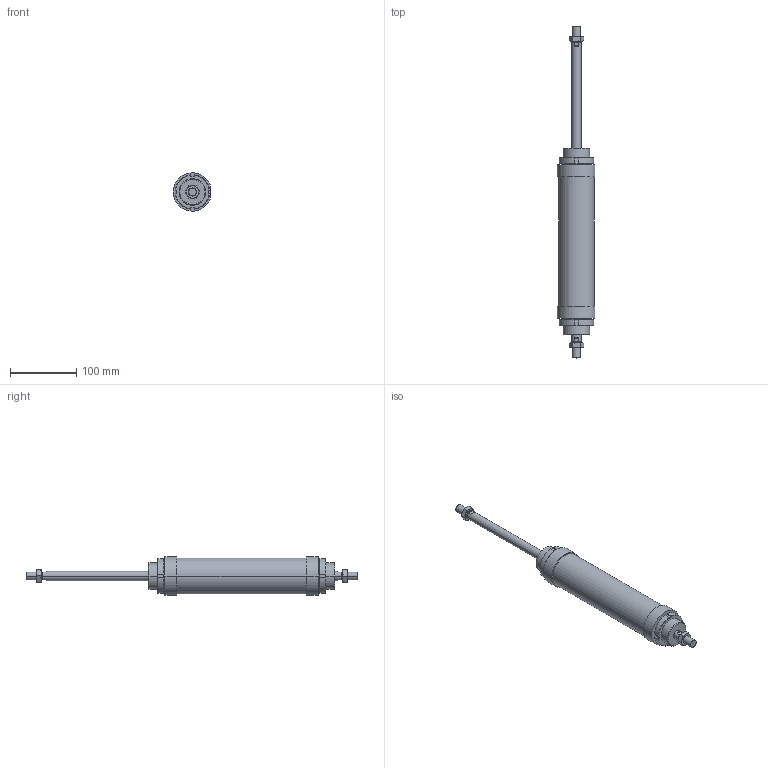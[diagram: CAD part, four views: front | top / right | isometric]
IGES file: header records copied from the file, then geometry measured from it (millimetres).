
Global section: file name: No Iges File Name specified; native system: AutoDesk Inventor R6.0; preprocessor: AutoDesk Inventor Iges Exporter R6.0; author: No Author specified; organization: No Organization specified; date: 20030403.073017; units: millimetre
Bounding box: 56.6 x 502 x 57.85 mm (x, y, z)
Volume: 654245.1 mm3; surface area: 97821.1 mm2
Topology: 6 solids, 6 shells, 182 faces, 424 edges, 264 vertices
Faces by surface type: plane 66, cone 52, bspline 30, cylinder 28, revolution 6
